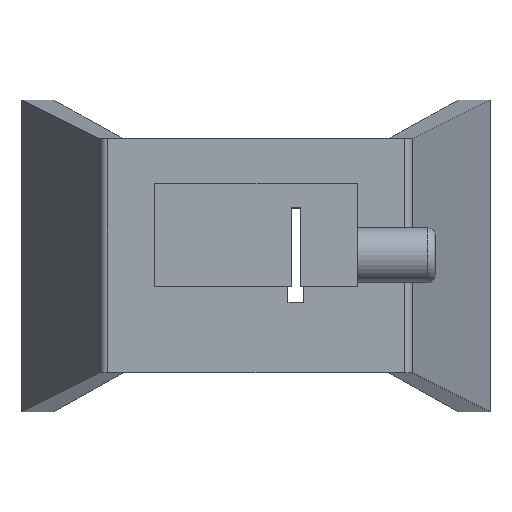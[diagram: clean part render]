
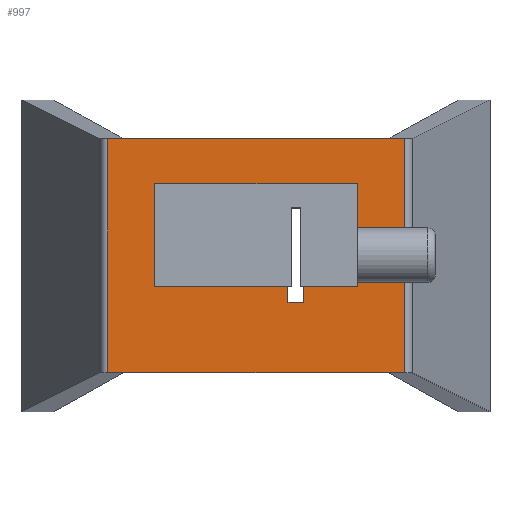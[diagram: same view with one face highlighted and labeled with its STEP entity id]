
A CAD part, top view. The second image highlights one B-rep face of the part: STEP entity #997.
In plain terms, the highlighted planar face has unit normal (0, 0, 1).
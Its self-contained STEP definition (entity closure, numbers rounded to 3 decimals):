
#27=FACE_BOUND('',#432,.T.);
#69=PLANE('',#1103);
#164=LINE('',#1581,#287);
#166=LINE('',#1587,#289);
#167=LINE('',#1589,#290);
#168=LINE('',#1590,#291);
#169=LINE('',#1593,#292);
#170=LINE('',#1595,#293);
#171=LINE('',#1597,#294);
#172=LINE('',#1598,#295);
#287=VECTOR('',#1298,10.);
#289=VECTOR('',#1304,10.);
#290=VECTOR('',#1305,10.);
#291=VECTOR('',#1306,10.);
#292=VECTOR('',#1307,10.);
#293=VECTOR('',#1308,10.);
#294=VECTOR('',#1309,10.);
#295=VECTOR('',#1310,10.);
#373=FACE_OUTER_BOUND('',#431,.T.);
#431=EDGE_LOOP('',(#863,#864,#865,#866));
#432=EDGE_LOOP('',(#867,#868,#869,#870));
#524=VERTEX_POINT('',#1578);
#525=VERTEX_POINT('',#1580);
#527=VERTEX_POINT('',#1586);
#528=VERTEX_POINT('',#1588);
#529=VERTEX_POINT('',#1591);
#530=VERTEX_POINT('',#1592);
#531=VERTEX_POINT('',#1594);
#532=VERTEX_POINT('',#1596);
#640=EDGE_CURVE('',#524,#525,#164,.T.);
#643=EDGE_CURVE('',#524,#527,#166,.T.);
#644=EDGE_CURVE('',#528,#527,#167,.T.);
#645=EDGE_CURVE('',#528,#525,#168,.T.);
#646=EDGE_CURVE('',#529,#530,#169,.T.);
#647=EDGE_CURVE('',#530,#531,#170,.T.);
#648=EDGE_CURVE('',#531,#532,#171,.T.);
#649=EDGE_CURVE('',#532,#529,#172,.T.);
#863=ORIENTED_EDGE('',*,*,#640,.F.);
#864=ORIENTED_EDGE('',*,*,#643,.T.);
#865=ORIENTED_EDGE('',*,*,#644,.F.);
#866=ORIENTED_EDGE('',*,*,#645,.T.);
#867=ORIENTED_EDGE('',*,*,#646,.T.);
#868=ORIENTED_EDGE('',*,*,#647,.T.);
#869=ORIENTED_EDGE('',*,*,#648,.T.);
#870=ORIENTED_EDGE('',*,*,#649,.T.);
#997=ADVANCED_FACE('',(#373,#27),#69,.T.);
#1103=AXIS2_PLACEMENT_3D('',#1585,#1302,#1303);
#1298=DIRECTION('',(0.,1.,0.));
#1302=DIRECTION('center_axis',(0.,0.,1.));
#1303=DIRECTION('ref_axis',(1.,0.,0.));
#1304=DIRECTION('',(1.,0.,0.));
#1305=DIRECTION('',(0.,-1.,0.));
#1306=DIRECTION('',(-1.,0.,0.));
#1307=DIRECTION('',(0.,1.,0.));
#1308=DIRECTION('',(1.,0.,0.));
#1309=DIRECTION('',(0.,-1.,0.));
#1310=DIRECTION('',(-1.,0.,0.));
#1578=CARTESIAN_POINT('',(-19.,-15.,4.));
#1580=CARTESIAN_POINT('',(-19.,15.,4.));
#1581=CARTESIAN_POINT('',(-19.,7.5,4.));
#1585=CARTESIAN_POINT('Origin',(0.,0.,
4.));
#1586=CARTESIAN_POINT('',(19.,-15.,4.));
#1587=CARTESIAN_POINT('',(20.,-15.,4.));
#1588=CARTESIAN_POINT('',(19.,15.,4.));
#1589=CARTESIAN_POINT('',(19.,-7.5,4.));
#1590=CARTESIAN_POINT('',(-20.,15.,4.));
#1591=CARTESIAN_POINT('',(4.1,-6.,4.));
#1592=CARTESIAN_POINT('',(4.1,6.,4.));
#1593=CARTESIAN_POINT('',(4.1,-3.,4.));
#1594=CARTESIAN_POINT('',(6.1,6.,4.));
#1595=CARTESIAN_POINT('',(2.05,6.,4.));
#1596=CARTESIAN_POINT('',(6.1,-6.,4.));
#1597=CARTESIAN_POINT('',(6.1,3.,4.));
#1598=CARTESIAN_POINT('',(3.05,-6.,4.));
